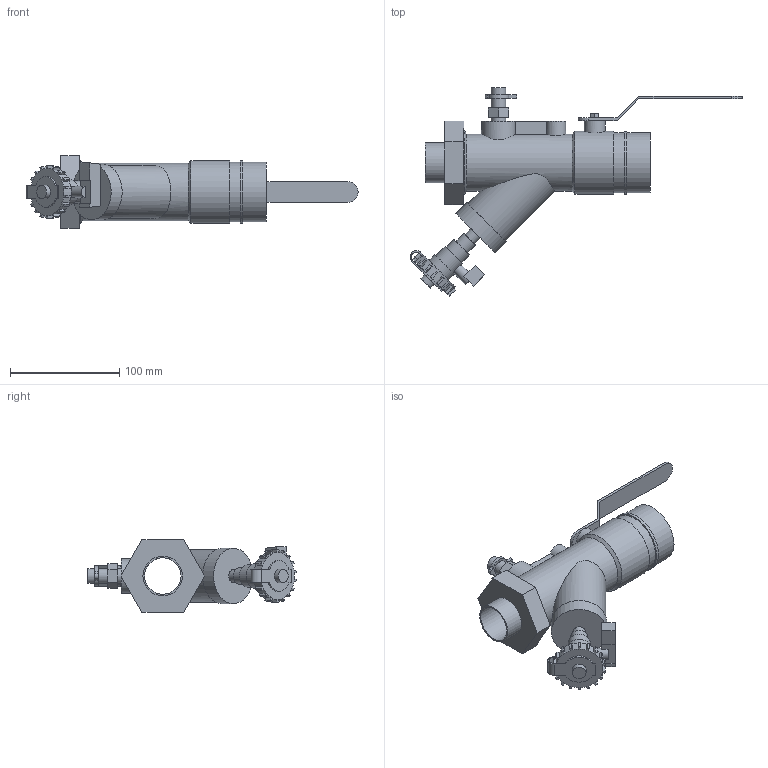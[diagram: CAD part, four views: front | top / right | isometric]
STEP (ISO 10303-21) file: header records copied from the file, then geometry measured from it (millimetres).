
FILE_DESCRIPTION(/* description */ ('VIC Y-STRAINER/BALL SERIES 78Y (FPT)','CAx-IF Rec.Pracs.---Representation and Presentation of Product Manufacturing Information (PMI)---4.0---2014-10-13'),/* implementation_level */ '2;1');
FILE_NAME(/* name */ 'C:\Users\kkamble\Desktop\extraction\OldVersions\Victaulic_IPS_Valve Ball Y Strainer Combination_Series 78Y (FPT)\Victaulic_IPS_Valve Ball Y Strainer Combination_Series 78Y (FPT)_01.5x01.0 (40x25).stp',/* time_stamp */ '2020-10-19T10:39:25+05:00',/* author */ ('kkamble'),/* organization */ ('Victaulic'),/* preprocessor_version */ 'ST-DEVELOPER v17.2',/* originating_system */ 'Autodesk Inventor 2019',/* authorisation */ '');
FILE_SCHEMA (('AP242_MANAGED_MODEL_BASED_3D_ENGINEERING_MIM_LF { 1 0 10303 442 1 1 4 }'));
Length unit declared in the file: inch
Products named in the file (1): 78Y-1.5x1.0
Bounding box: 303.43 x 190.56 x 66.04 mm (x, y, z)
Volume: 250421.9 mm3; surface area: 123324 mm2
Topology: 2 solids, 3 shells, 213 faces, 584 edges, 396 vertices
Faces by surface type: plane 142, cylinder 69, cone 2
Full cylindrical faces by diameter (mm): 10.16 x1, 11.887 x1, 12.565 x1, 12.7 x1, 13.462 x5, 15.24 x1, 19.05 x1, 20.32 x1, 22.86 x1, 25.4 x1, 27.94 x1, 33.401 x2, 36.195 x2, 41.402 x2, 42.291 x1, 43.18 x1, 48.26 x2, 50.8 x1, 52.324 x1, 54.61 x2, 57.15 x1, 57.404 x1, 58.42 x1
Entity records: 7753 total; most frequent: CARTESIAN_POINT 1917, DIRECTION 1205, ORIENTED_EDGE 1168, EDGE_CURVE 584, AXIS2_PLACEMENT_3D 426, VERTEX_POINT 396, LINE 353, VECTOR 353
